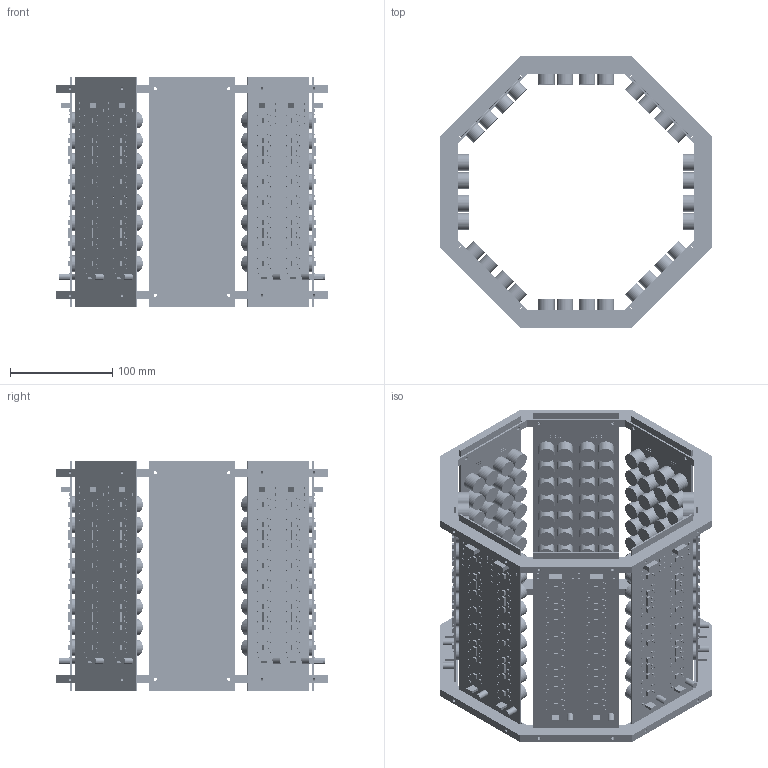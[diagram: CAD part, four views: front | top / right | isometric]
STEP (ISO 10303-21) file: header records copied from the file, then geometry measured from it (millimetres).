
FILE_DESCRIPTION(('Open CASCADE Model'),'2;1');
FILE_NAME('Open CASCADE Shape Model','2026-10-06T14:52:15',('Author'),( 'Open CASCADE'),'Open CASCADE STEP processor 7.9','Open CASCADE 7.9' ,'Unknown');
FILE_SCHEMA(('AUTOMOTIVE_DESIGN { 1 0 10303 214 1 1 1 1 }'));
Length unit declared in the file: millimetre
Products named in the file (20): tunnel8_32_r2; face0; PCB; C1; C19; J1; J3; Q1; R1; T1; U1; U10; face1; face2; face3; face4; face5; face6; face7; ring_-105
Assembly tree (1202 placements, depth 3):
  tunnel8_32_r2
    face0
      PCB
      C1  x38
      C19  x2
      J1  x2
      J3  x2
      Q1  x2
      R1  x50
      T1  x32
      U1  x4
      U10  x16
    face1
      PCB
      C1  x38
      C19  x2
      J1  x2
      J3  x2
      Q1  x2
      R1  x50
      T1  x32
      U1  x4
      U10  x16
    face2
      PCB
      C1  x38
      C19  x2
      J1  x2
      J3  x2
      Q1  x2
      R1  x50
      T1  x32
      U1  x4
      U10  x16
    face3
      PCB
      C1  x38
      C19  x2
      J1  x2
      J3  x2
      Q1  x2
      R1  x50
      T1  x32
      U1  x4
      U10  x16
    face4
      PCB
      C1  x38
      C19  x2
      J1  x2
      J3  x2
      Q1  x2
      R1  x50
      T1  x32
      U1  x4
      U10  x16
    face5
      PCB
      C1  x38
      C19  x2
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Bounding box: 265 x 265 x 224 mm (x, y, z)
Volume: 1102950.7 mm3; surface area: 713223.8 mm2
Topology: 1194 solids, 1194 shells, 7284 faces, 14688 edges, 9792 vertices
Faces by surface type: plane 6164, cylinder 1120
Full cylindrical faces by diameter (mm): 0.8 x32, 1 x208, 1.5 x512, 3.2 x96, 6.3 x16, 16 x256
Entity records: 26724 total; most frequent: CARTESIAN_POINT 5297, DIRECTION 4658, AXIS2_PLACEMENT_3D 1701, ORIENTED_EDGE 1272, PCURVE 1272, DEFINITIONAL_REPRESENTATION 1272, PRODUCT_DEFINITION_SHAPE 1222, LINE 1220
